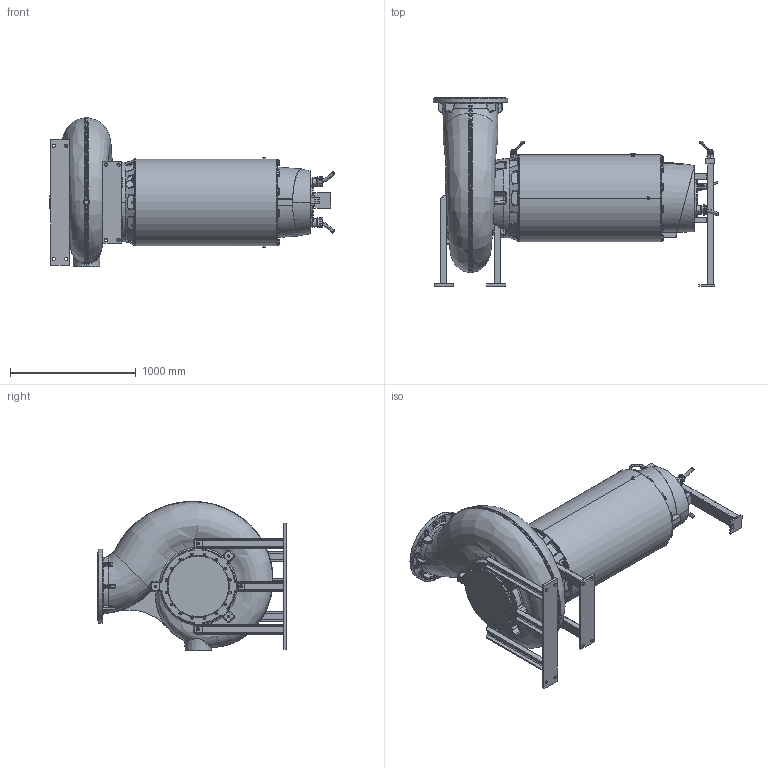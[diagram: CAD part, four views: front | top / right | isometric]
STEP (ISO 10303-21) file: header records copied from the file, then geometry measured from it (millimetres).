
FILE_DESCRIPTION (( 'STEP AP214' ), '1' );
FILE_NAME ('PE6_XFP400M-CH2_DRY HA_B_NG2.STEP', '2017-03-23T07:13:26', ( '' ), ( '' ), 'SwSTEP 2.0', 'SolidWorks 2017', '' );
FILE_SCHEMA (( 'AUTOMOTIVE_DESIGN' ));
Length unit declared in the file: millimetre
Products named in the file (1): PE6_XFP400M-CH2_DRY HA_B_NG2
Bounding box: 2266.08 x 1500 x 1184.25 mm (x, y, z)
Volume: 919159995 mm3; surface area: 9675315.8 mm2
Topology: 6 solids, 26 shells, 3473 faces, 8493 edges, 4928 vertices
Faces by surface type: plane 947, bspline 850, cylinder 747, cone 411, torus 362, sphere 156
Entity records: 207951 total; most frequent: CARTESIAN_POINT 95561, ORIENTED_EDGE 16500, DIRECTION 14179, EDGE_CURVE 8250, AXIS2_PLACEMENT_3D 5680, VERTEX_POINT 4924, EDGE_LOOP 3694, UNCERTAINTY_MEASURE_WITH_UNIT 3481
